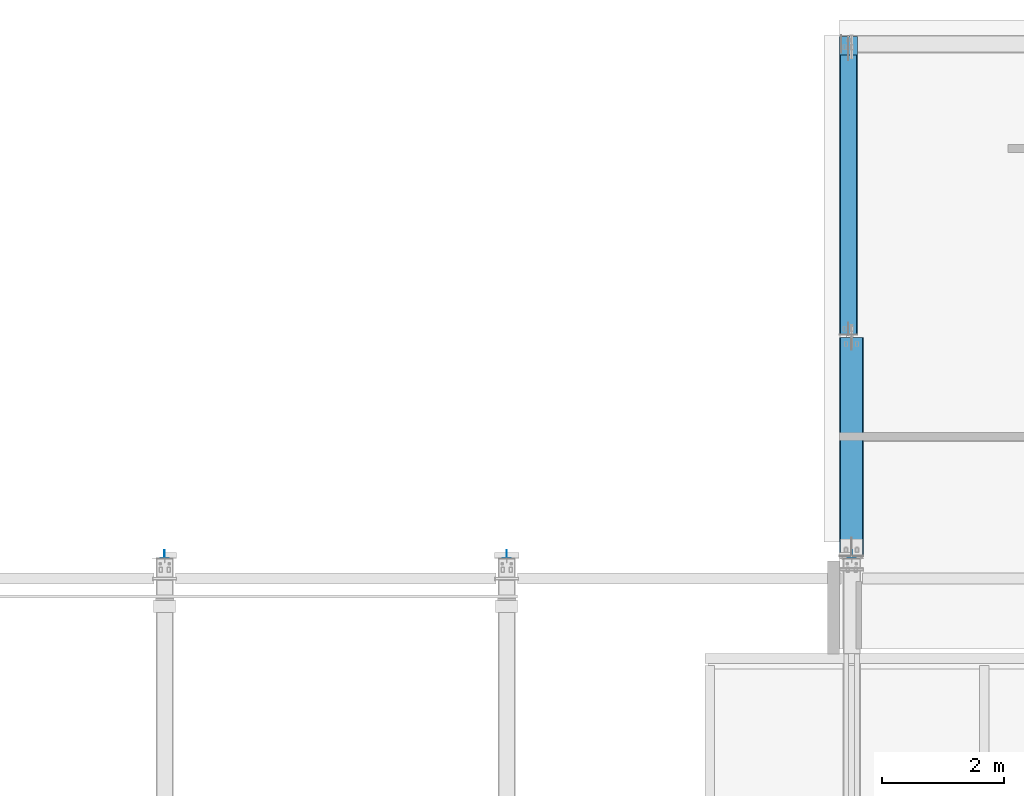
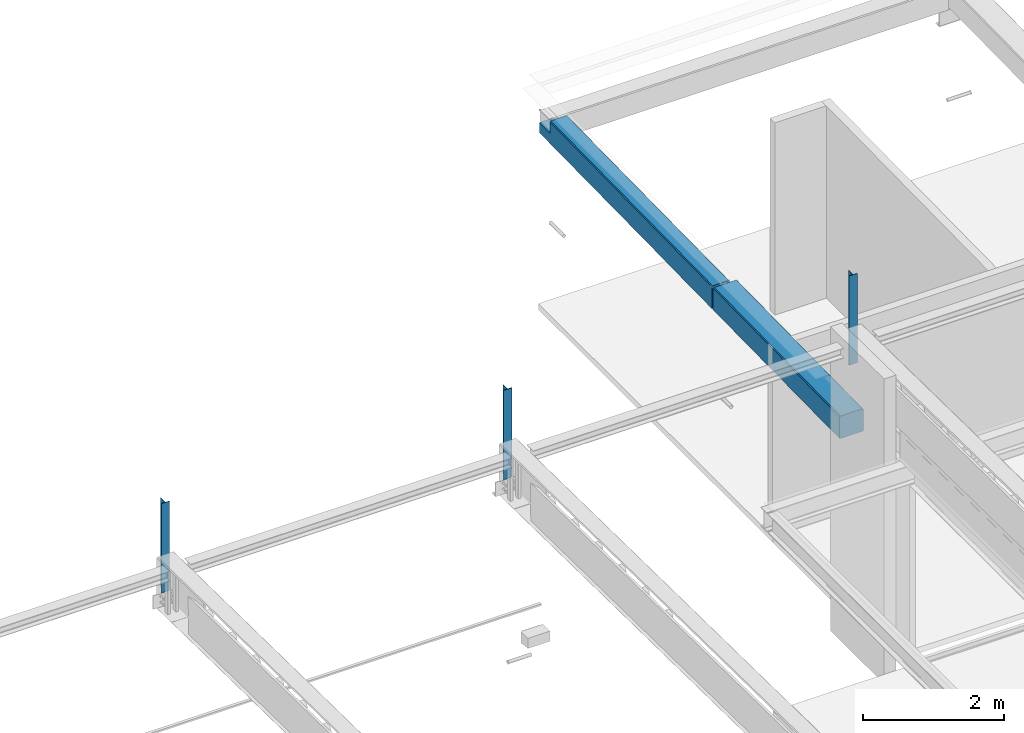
# One storey, part 131 of 186: 5 beams.
"""IFC4X3_ADD2 building model written with IfcOpenShell, lengths in millimetres."""

import ifcopenshell
import ifcopenshell.guid

model = None  # the IFC model being written
_history = None  # IfcOwnerHistory: only IFC2X3 demands one
_inside = {}  # id of a spatial element -> (the spatial element, [elements in it])
_under = {}  # id of a project, library or spatial element -> (it, [spatial elements below it])
_declared = {}  # id of a project -> (the project, [libraries it declares])
_typed = {}  # id of a type object -> (the type object, [elements of that type])
_made_of = {}  # id of a material, layer set ... -> (it, [elements and type objects made of it])


def new_model(schema):
    """Start an empty IFC model of exactly this schema.

    Asked for "IFC4X3", IfcOpenShell would pick the latest addendum, in which some entities
    have other attributes; the version numbers below select the first issue.
    IFC2X3 requires an IfcOwnerHistory on every rooted entity: one is made here for all.
    """
    global model, _history
    if schema == "IFC4X3":
        model = ifcopenshell.file(schema_version=(4, 3, 0, 0))
    else:
        model = ifcopenshell.file(schema=schema)
    _inside.clear()
    _under.clear()
    _declared.clear()
    _typed.clear()
    _made_of.clear()
    _history = None
    if model.schema == "IFC2X3":
        org = make("IfcOrganization", Name="unknown")
        user = make(
            "IfcPersonAndOrganization",
            ThePerson=make("IfcPerson", FamilyName="unknown"),
            TheOrganization=org,
        )
        app = make(
            "IfcApplication",
            ApplicationDeveloper=org,
            Version="unknown",
            ApplicationFullName="unknown",
            ApplicationIdentifier="unknown",
        )
        _history = make(
            "IfcOwnerHistory",
            OwningUser=user,
            OwningApplication=app,
            ChangeAction="ADDED",
            CreationDate=0,
        )
    return model


def make(cls, **values):
    """One entity of the class cls with the attributes given. An attribute that is None is left unset."""
    return model.create_entity(
        cls, **{name: value for name, value in values.items() if value is not None}
    )


def rooted(cls, **values):
    """An entity with a GlobalId (a new one), such as an element, a storey or a relation."""
    return make(cls, GlobalId=ifcopenshell.guid.new(), OwnerHistory=_history, **values)


def si_unit(unit_type, name, prefix=None):
    """IfcSIUnit, for example si_unit("LENGTHUNIT", "METRE", prefix="MILLI")."""
    return make("IfcSIUnit", UnitType=unit_type, Prefix=prefix, Name=name)


def assignment(units):
    """IfcUnitAssignment: the units of a project."""
    return None if units is None else make("IfcUnitAssignment", Units=units)


def point(xyz):
    """IfcCartesianPoint."""
    return None if xyz is None else make("IfcCartesianPoint", Coordinates=xyz)


def direction(xyz):
    """IfcDirection."""
    return None if xyz is None else make("IfcDirection", DirectionRatios=xyz)


def frame(location, z_axis=None, x_axis=None):
    """IfcAxis2Placement3D, a coordinate frame: its origin and axes. An axis left out is left unset."""
    return make(
        "IfcAxis2Placement3D",
        Location=point(location),
        Axis=direction(z_axis),
        RefDirection=direction(x_axis),
    )


def origin_with_axes():
    """The frame at (0, 0, 0) with the z axis (0, 0, 1) and the x axis (1, 0, 0) written out."""
    return frame((0.0, 0.0, 0.0), z_axis=(0.0, 0.0, 1.0), x_axis=(1.0, 0.0, 0.0))


def place(relative_to, where):
    """IfcLocalPlacement: puts the frame where relative to a parent placement (None: the world)."""
    return make(
        "IfcLocalPlacement", PlacementRelTo=relative_to, RelativePlacement=where
    )


def context(
    kind, dimensions, precision=None, world=None, true_north=None, identifier=None
):
    """IfcGeometricRepresentationContext, for example the 3D "Model" context."""
    return make(
        "IfcGeometricRepresentationContext",
        ContextIdentifier=identifier,
        ContextType=kind,
        CoordinateSpaceDimension=dimensions,
        Precision=precision,
        WorldCoordinateSystem=world,
        TrueNorth=true_north,
    )


def subcontext(parent, identifier, kind, view, scale=None):
    """IfcGeometricRepresentationSubContext, for example "Body" below "Model"."""
    return make(
        "IfcGeometricRepresentationSubContext",
        ContextIdentifier=identifier,
        ContextType=kind,
        ParentContext=parent,
        TargetScale=scale,
        TargetView=view,
    )


def project(units=None, contexts=None):
    """IfcProject with its units and contexts."""
    return rooted(
        "IfcProject",
        Name="project",
        RepresentationContexts=contexts,
        UnitsInContext=assignment(units),
    )


def spatial(cls, under=None, at=None, **own):
    """A site, building, storey or space (cls), placed at a placement, below another one or the project."""
    s = rooted(cls, ObjectPlacement=at, **own)
    if under is not None:
        _under.setdefault(under.id(), (under, []))[1].append(s)
    return s


def point_list(points):
    """IfcCartesianPointList2D or 3D."""
    cls = (
        "IfcCartesianPointList2D" if len(points[0]) == 2 else "IfcCartesianPointList3D"
    )
    return make(cls, CoordList=points)


def polygons(points, faces, closed=None, point_numbers=None):
    """IfcPolygonalFaceSet: a face is its outer loop, then its inner loops; points numbered from 1."""
    made = []
    for loops in faces:
        if len(loops) == 1:
            made.append(make("IfcIndexedPolygonalFace", CoordIndex=loops[0]))
        else:
            made.append(
                make(
                    "IfcIndexedPolygonalFaceWithVoids",
                    CoordIndex=loops[0],
                    InnerCoordIndices=loops[1:],
                )
            )
    return make(
        "IfcPolygonalFaceSet",
        Coordinates=point_list(points),
        Closed=closed,
        Faces=made,
        PnIndex=point_numbers,
    )


def shape(context_of_items, identifier, shape_type, items):
    """IfcShapeRepresentation: the items that make up one representation, for example the "Body"."""
    return make(
        "IfcShapeRepresentation",
        ContextOfItems=context_of_items,
        RepresentationIdentifier=identifier,
        RepresentationType=shape_type,
        Items=items,
    )


def made_of(thing, what):
    """Note that an element or type object is made of a material, layer set ...; save() writes the relation."""
    if what is not None:
        _made_of.setdefault(what.id(), (what, []))[1].append(thing)
    return thing


def element(
    cls,
    number,
    at=None,
    inside=None,
    cuts=None,
    type_object=None,
    material=None,
    context=None,
    identifier="Body",
    shape_type=None,
    held_by="IfcProductDefinitionShape",
    body=None,
    shapes=None,
    **own,
):
    """One element of the class cls, such as IfcWall. Its Tag is "e" and its number.

    at: its placement. inside: the storey or other place that contains it. cuts: it is an
    opening in that element (IfcRelVoidsElement). A single representation is given by context,
    identifier, shape_type and body (its items); several are given by shapes. held_by: the class
    of the entity that holds the representations. save() writes the other relations.
    """
    e = rooted(cls, Tag="e%d" % number, ObjectPlacement=at, **own)
    if body is not None:
        shapes = [shape(context, identifier, shape_type, body)]
    if shapes is not None:
        e.Representation = make(held_by, Representations=shapes)
    if inside is not None:
        _inside.setdefault(inside.id(), (inside, []))[1].append(e)
    if cuts is not None:
        rooted(
            "IfcRelVoidsElement", RelatingBuildingElement=cuts, RelatedOpeningElement=e
        )
    if type_object is not None:
        _typed.setdefault(type_object.id(), (type_object, []))[1].append(e)
    return made_of(e, material)


def aggregate(whole, parts):
    """IfcRelAggregates: a whole, such as a stair, and the parts it consists of."""
    return rooted("IfcRelAggregates", RelatingObject=whole, RelatedObjects=parts)


def save(model, path):
    """Write the relations noted so far, then the file.

    IfcRelAggregates (storeys below a building ...), IfcRelContainedInSpatialStructure (elements
    in a storey), IfcRelDefinesByType, IfcRelAssociatesMaterial and IfcRelDeclares: one each for
    every whole, place, type object, material and project.
    """
    for whole, parts in _under.values():
        aggregate(whole, parts)
    for where, things in _inside.values():
        rooted(
            "IfcRelContainedInSpatialStructure",
            RelatedElements=things,
            RelatingStructure=where,
        )
    for kind, things in _typed.values():
        rooted("IfcRelDefinesByType", RelatedObjects=things, RelatingType=kind)
    for what, things in _made_of.values():
        rooted("IfcRelAssociatesMaterial", RelatedObjects=things, RelatingMaterial=what)
    for by, libraries in _declared.values():
        rooted("IfcRelDeclares", RelatingContext=by, RelatedDefinitions=libraries)
    model.write(path)


model = new_model("IFC4X3_ADD2")

# Units and contexts
model_context = context("Model", 3, precision=1e-05, world=origin_with_axes(), true_north=direction((0.0, 1.0)))
body_context = subcontext(model_context, "Body", "Model", "MODEL_VIEW")
ifc_project = project(units=[si_unit("LENGTHUNIT", "METRE", prefix="MILLI"), si_unit("AREAUNIT", "SQUARE_METRE"), si_unit("VOLUMEUNIT", "CUBIC_METRE"), si_unit("PLANEANGLEUNIT", "RADIAN"), si_unit("TIMEUNIT", "SECOND"), si_unit("MASSUNIT", "GRAM")], contexts=[model_context])

# Site, building, storey
site_placement = place(None, origin_with_axes())
site = spatial("IfcSite", under=ifc_project, at=site_placement, Name="Site", CompositionType="ELEMENT")
building_placement = place(site_placement, origin_with_axes())
building = spatial("IfcBuilding", under=site, at=building_placement, Name="IFC Building Story")
storey_placement = place(building_placement, frame((0.0, 0.0, 4370.0), z_axis=(0.0, 0.0, 1.0), x_axis=(1.0, 0.0, 0.0)))
storey = spatial("IfcBuildingStorey", under=building, at=storey_placement, Name="ETAGE 10 (1)", Elevation=4370.0)

# Beams
beam_1_placement = place(storey_placement, frame((0.0, 0.0, -4370.0), z_axis=(0.0, 0.0, 1.0), x_axis=(1.0, 0.0, 0.0)))
element("IfcBeam", 1, at=beam_1_placement, inside=storey, Name="PS6", ObjectType="HALF_IPE270_135", context=body_context, shape_type="Tessellation", body=[
    polygons([(27752.3908896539, 18115.0, 9995.00041961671), (27752.3908896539, 18115.0, 8450.00041961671), (27752.3908896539, 17990.19999981, 8450.00041961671), (27752.3908896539, 17990.19999981, 9995.00041961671), (27688.1908896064, 17990.19999981, 8450.00041961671), (27688.1908896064, 17990.19999981, 9995.00041961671), (27688.1908896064, 17980.0, 8450.00041961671), (27688.1908896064, 17980.0, 9995.00041961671), (27823.19088960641, 17980.0, 8450.00041961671), (27823.19088960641, 17980.0, 9995.00041961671), (27823.19088960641, 17990.19999981, 8450.00041961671), (27823.19088960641, 17990.19999981, 9995.00041961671), (27758.99088955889, 17990.19999981, 8450.00041961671), (27758.99088955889, 17990.19999981, 9995.00041961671), (27758.9908895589, 18115.0, 8450.00041961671), (27758.9908895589, 18115.0, 9995.00041961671)], [[[1, 2, 3, 4]], [[4, 3, 5, 6]], [[6, 5, 7, 8]], [[8, 7, 9, 10]], [[10, 9, 11, 12]], [[12, 11, 13, 14]], [[14, 13, 15, 16]], [[16, 15, 2, 1]], [[4, 6, 8]], [[4, 8, 14]], [[14, 16, 1]], [[14, 1, 4]], [[8, 10, 14]], [[10, 12, 14]], [[13, 11, 9]], [[13, 9, 3]], [[3, 2, 15]], [[3, 15, 13]], [[9, 7, 3]], [[7, 5, 3]]]),
])
beam_2_placement = place(storey_placement, frame((0.0, 0.0, -4370.0), z_axis=(0.0, 0.0, 1.0), x_axis=(1.0, 0.0, 0.0)))
element("IfcBeam", 2, at=beam_2_placement, inside=storey, Name="PS6", ObjectType="HALF_IPE270_135", context=body_context, shape_type="Tessellation", body=[
    polygons([(33402.88850818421, 18115.0, 9995.00041961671), (33402.88850818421, 18115.0, 8450.00041961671), (33402.88850818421, 17990.19999981, 8450.00041961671), (33402.88850818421, 17990.19999981, 9995.00041961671), (33338.6885081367, 17990.19999981, 8450.00041961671), (33338.6885081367, 17990.19999981, 9995.00041961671), (33338.6885081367, 17980.0, 8450.00041961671), (33338.6885081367, 17980.0, 9995.00041961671), (33473.68850813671, 17980.0, 8450.00041961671), (33473.68850813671, 17980.0, 9995.00041961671), (33473.68850813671, 17990.19999981, 8450.00041961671), (33473.68850813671, 17990.19999981, 9995.00041961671), (33409.48850808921, 17990.19999981, 8450.00041961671), (33409.48850808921, 17990.19999981, 9995.00041961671), (33409.48850808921, 18115.0, 8450.00041961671), (33409.48850808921, 18115.0, 9995.00041961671)], [[[1, 2, 3, 4]], [[4, 3, 5, 6]], [[6, 5, 7, 8]], [[8, 7, 9, 10]], [[10, 9, 11, 12]], [[12, 11, 13, 14]], [[14, 13, 15, 16]], [[16, 15, 2, 1]], [[4, 6, 8]], [[4, 8, 14]], [[14, 16, 1]], [[14, 1, 4]], [[8, 10, 14]], [[10, 12, 14]], [[13, 11, 9]], [[13, 9, 3]], [[3, 2, 15]], [[3, 15, 13]], [[9, 7, 3]], [[7, 5, 3]]]),
])
beam_3_placement = place(storey_placement, frame((0.0, 0.0, -4370.0), z_axis=(0.0, 0.0, 1.0), x_axis=(1.0, 0.0, 0.0)))
element("IfcBeam", 3, at=beam_3_placement, inside=storey, Name="PS6", ObjectType="HALF_IPE270_135", context=body_context, shape_type="Tessellation", body=[
    polygons([(22152.88946185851, 18115.0, 9995.00041961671), (22152.88946185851, 18115.0, 8450.00041961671), (22152.88946185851, 17990.19999981, 8450.00041961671), (22152.88946185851, 17990.19999981, 9995.00041961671), (22088.689461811, 17990.19999981, 8450.00041961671), (22088.689461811, 17990.19999981, 9995.00041961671), (22088.689461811, 17980.0, 8450.00041961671), (22088.689461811, 17980.0, 9995.00041961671), (22223.68946181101, 17980.0, 8450.00041961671), (22223.68946181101, 17980.0, 9995.00041961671), (22223.68946181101, 17990.19999981, 8450.00041961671), (22223.68946181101, 17990.19999981, 9995.00041961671), (22159.4894617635, 17990.19999981, 8450.00041961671), (22159.4894617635, 17990.19999981, 9995.00041961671), (22159.4894617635, 18115.0, 8450.00041961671), (22159.4894617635, 18115.0, 9995.00041961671)], [[[1, 2, 3, 4]], [[4, 3, 5, 6]], [[6, 5, 7, 8]], [[8, 7, 9, 10]], [[10, 9, 11, 12]], [[12, 11, 13, 14]], [[14, 13, 15, 16]], [[16, 15, 2, 1]], [[4, 6, 8]], [[4, 8, 14]], [[14, 16, 1]], [[14, 1, 4]], [[8, 10, 14]], [[10, 12, 14]], [[13, 11, 9]], [[13, 9, 3]], [[3, 2, 15]], [[3, 15, 13]], [[9, 7, 3]], [[7, 5, 3]]]),
])
beam_4_placement = place(storey_placement, frame((0.0, 0.0, -4370.0), z_axis=(0.0, 0.0, 1.0), x_axis=(1.0, 0.0, 0.0)))
element("IfcBeam", 4, at=beam_4_placement, inside=storey, Name="BEAM", ObjectType="CRH_R_400*290*15", context=body_context, shape_type="Tessellation", body=[
    polygons([(33481.1886988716, 26229.99974906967, 7719.530489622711), (33496.1886988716, 26229.99974906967, 7704.528681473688), (33496.1886988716, 26229.99974906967, 7514.528718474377), (33206.1886988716, 26229.99974906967, 7514.528718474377), (33206.1886988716, 26229.99974906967, 7704.528681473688), (33221.18869887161, 26229.99974906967, 7719.530489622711), (33496.1886988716, 26529.99974906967, 7514.528718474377), (33206.1886988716, 26529.99974906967, 7514.528718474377), (33489.29467671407, 21639.9893339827, 7256.318164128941), (33496.1886988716, 21639.9893339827, 7263.213017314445), (33496.1886988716, 21639.9893339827, 7633.257618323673), (33481.1886988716, 21639.9893339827, 7648.259426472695), (33221.18869887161, 21639.9893339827, 7648.259426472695), (33206.1886988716, 21639.9893339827, 7633.257618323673), (33206.1886988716, 21639.9893339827, 7263.213017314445), (33213.08272102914, 21639.9893339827, 7256.318164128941), (33486.18956511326, 21839.9893339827, 7256.318164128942), (33216.18783262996, 21839.9893339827, 7256.318164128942), (33481.1886988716, 21839.9893339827, 7251.31669506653), (33221.18869887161, 21839.9893339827, 7251.31669506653), (33481.1886988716, 26139.99974906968, 7318.084803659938), (33221.18869887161, 26139.99974906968, 7318.084803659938), (33493.2428982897, 26139.99974906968, 7330.140456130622), (33209.13449945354, 26139.99974906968, 7330.140456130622), (33206.1886988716, 26529.99974906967, 7339.142309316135), (33215.1894670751, 26529.99974906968, 7330.140456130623), (33487.18793066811, 26529.99974906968, 7330.140456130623), (33496.1886988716, 26529.99974906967, 7339.142309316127)], [[[1, 2, 3]], [[1, 3, 4]], [[1, 4, 5]], [[1, 5, 6]], [[3, 7, 8, 4]], [[9, 10, 11]], [[9, 11, 12]], [[9, 12, 13]], [[9, 13, 14]], [[9, 14, 15]], [[9, 15, 16]], [[17, 9, 16, 18]], [[19, 17, 18, 20]], [[21, 19, 20, 22]], [[23, 21, 22, 24]], [[18, 16, 15]], [[18, 15, 24]], [[24, 22, 18]], [[22, 20, 18]], [[15, 25, 24]], [[25, 26, 24]], [[27, 23, 24, 26]], [[17, 19, 21]], [[23, 27, 28]], [[23, 28, 17]], [[17, 21, 23]], [[28, 10, 17]], [[10, 9, 17]], [[3, 2, 11]], [[11, 10, 28]], [[11, 28, 3]], [[28, 7, 3]], [[1, 12, 11, 2]], [[6, 13, 12, 1]], [[5, 14, 13, 6]], [[4, 8, 25]], [[4, 25, 15]], [[4, 15, 14]], [[14, 5, 4]], [[7, 28, 27]], [[7, 27, 26]], [[7, 26, 25]], [[7, 25, 8]]]),
])
beam_5_placement = place(storey_placement, frame((0.0, 0.0, -4370.0), z_axis=(0.0, 0.0, 1.0), x_axis=(1.0, 0.0, 0.0)))
element("IfcBeam", 5, at=beam_5_placement, inside=storey, Name="BEAM", ObjectType="CRH_R_400*390*15", context=body_context, shape_type="Tessellation", body=[
    polygons([(33581.18869887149, 18319.9995661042, 7196.59209988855), (33586.18630813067, 18319.9995661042, 7201.590312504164), (33216.19108961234, 18319.9995661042, 7201.590312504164), (33221.1886988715, 18319.9995661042, 7196.59209988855), (33590.8475620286, 18019.9995661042, 7201.590312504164), (33211.5298357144, 18019.9995661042, 7201.590312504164), (33206.1886988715, 21599.99942426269, 7262.563103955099), (33206.1886988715, 18019.9995661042, 7206.932094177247), (33206.1886988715, 18019.9995661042, 7576.976763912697), (33206.1886988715, 21599.99942426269, 7632.607773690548), (33221.18869887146, 18019.9995661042, 7591.978574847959), (33221.18869887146, 21599.99942426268, 7647.609584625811), (33581.18869887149, 18019.9995661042, 7591.978574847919), (33581.18869887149, 21599.99942426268, 7647.60958462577), (33596.1886988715, 18019.9995661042, 7576.976763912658), (33596.1886988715, 21599.99942426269, 7632.60777369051), (33589.29562715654, 21399.99942426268, 7252.561322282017), (33581.18869887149, 21399.99942426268, 7244.453415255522), (33221.1886988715, 21399.99942426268, 7244.453415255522), (33213.08177058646, 21399.99942426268, 7252.561322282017), (33586.1881245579, 21599.99942426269, 7252.561322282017), (33216.1892731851, 21599.99942426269, 7252.561322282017), (33596.1886988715, 21599.99942426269, 7262.563103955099), (33596.1886988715, 18019.9995661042, 7206.932094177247)], [[[1, 2, 3, 4]], [[2, 5, 6, 3]], [[7, 8, 9, 10]], [[10, 9, 11, 12]], [[12, 11, 13, 14]], [[14, 13, 15, 16]], [[17, 18, 19, 20]], [[21, 17, 20, 22]], [[22, 7, 10]], [[22, 10, 12]], [[22, 12, 14]], [[22, 14, 16]], [[22, 16, 23]], [[22, 23, 21]], [[16, 15, 24, 23]], [[17, 21, 23]], [[17, 23, 2]], [[2, 1, 18]], [[2, 18, 17]], [[2, 23, 24]], [[24, 5, 2]], [[4, 19, 18, 1]], [[3, 6, 8]], [[8, 7, 3]], [[20, 19, 4]], [[20, 4, 3]], [[3, 7, 20]], [[7, 22, 20]], [[5, 24, 15]], [[5, 15, 13]], [[5, 13, 11]], [[5, 11, 9]], [[5, 9, 8]], [[5, 8, 6]]]),
])

save(model, "model.ifc")
